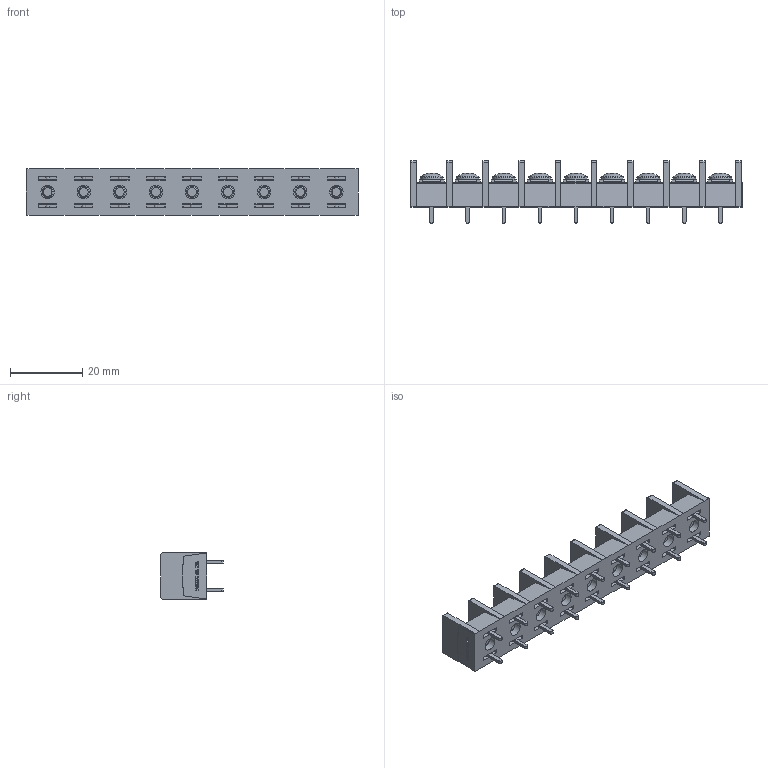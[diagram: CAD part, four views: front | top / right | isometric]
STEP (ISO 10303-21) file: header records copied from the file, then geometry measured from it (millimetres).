
FILE_DESCRIPTION(/* description */ ('Alibre Inc.'),/* implementation_level */ '2;1');
FILE_NAME(/* name */ 'export0',/* time_stamp */ '2015-10-23T18:04:59+09:00',/* author */ (''),/* organization */ (''),/* preprocessor_version */ 'ST-DEVELOPER v14',/* originating_system */ 'Alibre',/* authorisation */ '');
FILE_SCHEMA (('CONFIG_CONTROL_DESIGN'));
Length unit declared in the file: centimetre
Products named in the file (1): ID_1
Bounding box: 92 x 17.3 x 12.8 mm (x, y, z)
Volume: 8550.9 mm3; surface area: 10140.9 mm2
Topology: 1 solids, 154 shells, 2955 faces, 7583 edges, 5012 vertices
Faces by surface type: plane 2210, bspline 572, cylinder 101, cone 45, torus 18, sphere 9
Full cylindrical faces by diameter (mm): 3 x18, 3.7 x9, 4.6 x9, 6.3 x9
Entity records: 85323 total; most frequent: CARTESIAN_POINT 20585, ORIENTED_EDGE 15004, DIRECTION 8950, EDGE_CURVE 7502, VECTOR 5767, LINE 5767, VERTEX_POINT 5003, EDGE_LOOP 3229
